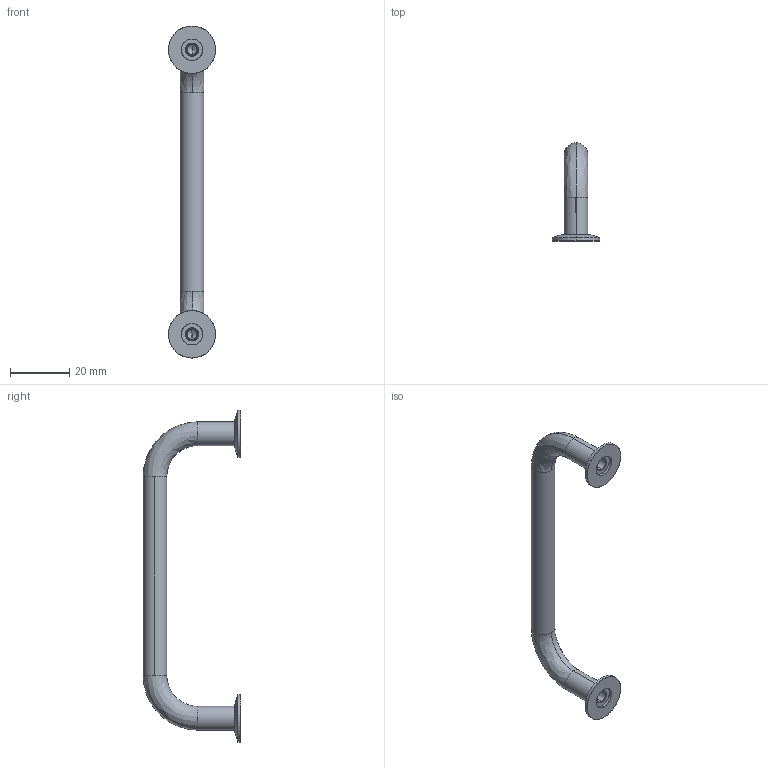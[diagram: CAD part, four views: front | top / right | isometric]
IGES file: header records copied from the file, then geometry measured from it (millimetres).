
Start section: SolidWorks IGES file using analytic representation for surfaces
Global section: file name: C:\Documents and Settings\IANO\Desktop\Temp File\Process pending\PCN pending\78700_v2\78700_v2_20170116_IGES\78700.W0109.igs; native system: SolidWorks 2009; preprocessor: SolidWorks 2009; author: IANO; date: 170310.095656; units: millimetre
Bounding box: 16 x 33 x 112 mm (x, y, z)
Surface area: 4645.9 mm2 (no closed solid volume)
Topology: 0 solids, 0 shells, 52 faces, 816 edges, 812 vertices
Faces by surface type: revolution 38, bspline 14
